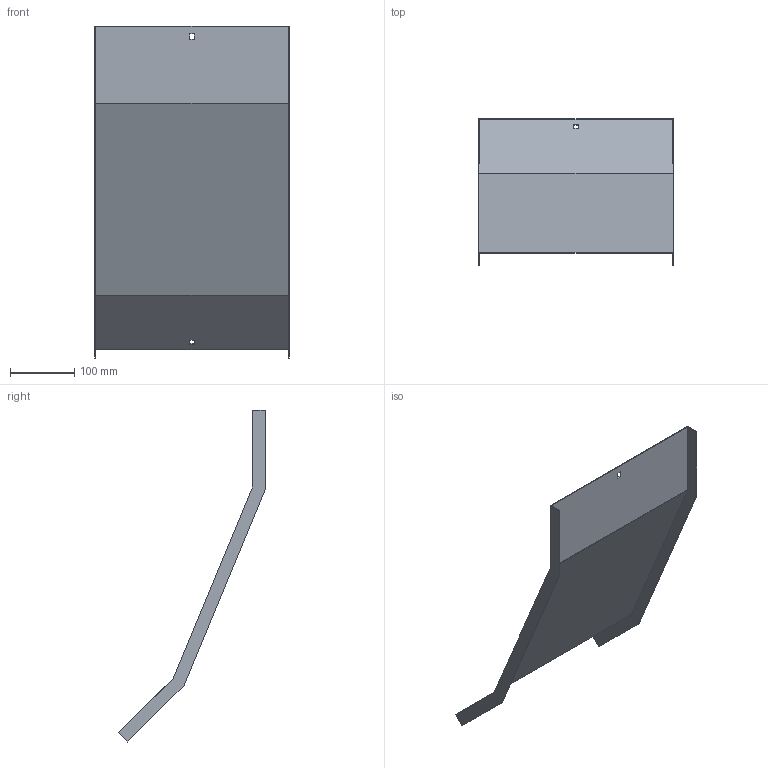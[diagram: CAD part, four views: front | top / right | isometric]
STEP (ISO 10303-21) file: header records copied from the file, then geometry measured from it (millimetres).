
FILE_DESCRIPTION (( 'STEP AP214' ), '1' );
FILE_NAME ('31N5R300_H150.step', '2025-02-21T14:28:35', ( '' ), ( '' ), 'SwSTEP 2.0', 'SolidWorks 2023', '' );
FILE_SCHEMA (( 'AUTOMOTIVE_DESIGN' ));
Length unit declared in the file: millimetre
Products named in the file (1): 31N5R300_H150
Bounding box: 303 x 228.46 x 517.41 mm (x, y, z)
Volume: 287700.4 mm3; surface area: 386448.5 mm2
Topology: 1 solids, 1 shells, 26 faces, 72 edges, 48 vertices
Faces by surface type: plane 26
Entity records: 847 total; most frequent: CARTESIAN_POINT 147, ORIENTED_EDGE 144, DIRECTION 126, LINE 72, EDGE_CURVE 72, VECTOR 72, VERTEX_POINT 48, EDGE_LOOP 30
